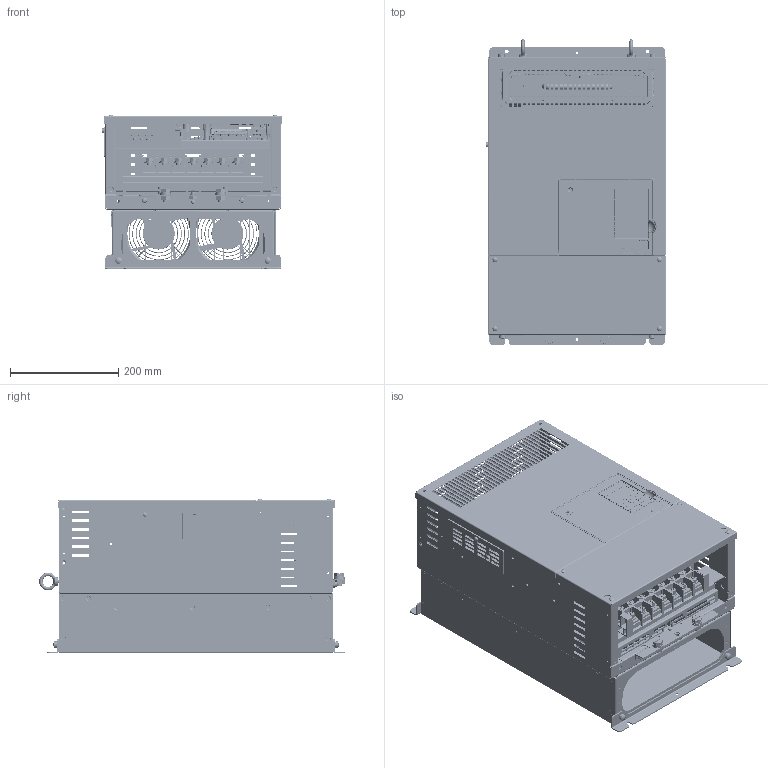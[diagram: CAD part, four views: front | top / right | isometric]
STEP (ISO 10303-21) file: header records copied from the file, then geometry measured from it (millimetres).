
FILE_DESCRIPTION((''),'2;1');
FILE_NAME('RU4A0073AAA_ASM','2014-09-04T',('jmattas'),(''),'PRO/ENGINEER BY PARAMETRIC TECHNOLOGY CORPORATION, 2010330','PRO/ENGINEER BY PARAMETRIC TECHNOLOGY CORPORATION, 2010330','');
FILE_SCHEMA(('CONFIG_CONTROL_DESIGN'));
Products named in the file (8): RU4A0073AAA_BASE; RU4A0073AAA_COVER1; RU4A0073AAA_COVER2; RU4A0073AAA_DIGOP; RU4A0073AAA_COVER3; RU4A0073AAA_BRACKET1; RU4A0073AAA_BRACKET2; RU4A0073AAA_ASM
Assembly tree (7 placements, depth 2):
  RU4A0073AAA_ASM
    RU4A0073AAA_BASE
    RU4A0073AAA_COVER1
    RU4A0073AAA_COVER2
    RU4A0073AAA_DIGOP
    RU4A0073AAA_COVER3
    RU4A0073AAA_BRACKET1
    RU4A0073AAA_BRACKET2
Bounding box: 334.3 x 565.1 x 285.5 mm (x, y, z)
Volume: 114337 mm3; surface area: 3652064 mm2
Topology: 4 solids, 135 shells, 17285 faces, 45700 edges, 28425 vertices
Faces by surface type: plane 8748, cylinder 5221, bspline 1204, cone 908, torus 620, sphere 461, extrusion 123
Entity records: 608277 total; most frequent: CARTESIAN_POINT 192682, ORIENTED_EDGE 90146, DIRECTION 81006, EDGE_CURVE 45194, VERTEX_POINT 28419, AXIS2_PLACEMENT_3D 27249, VECTOR 26508, LINE 26385
